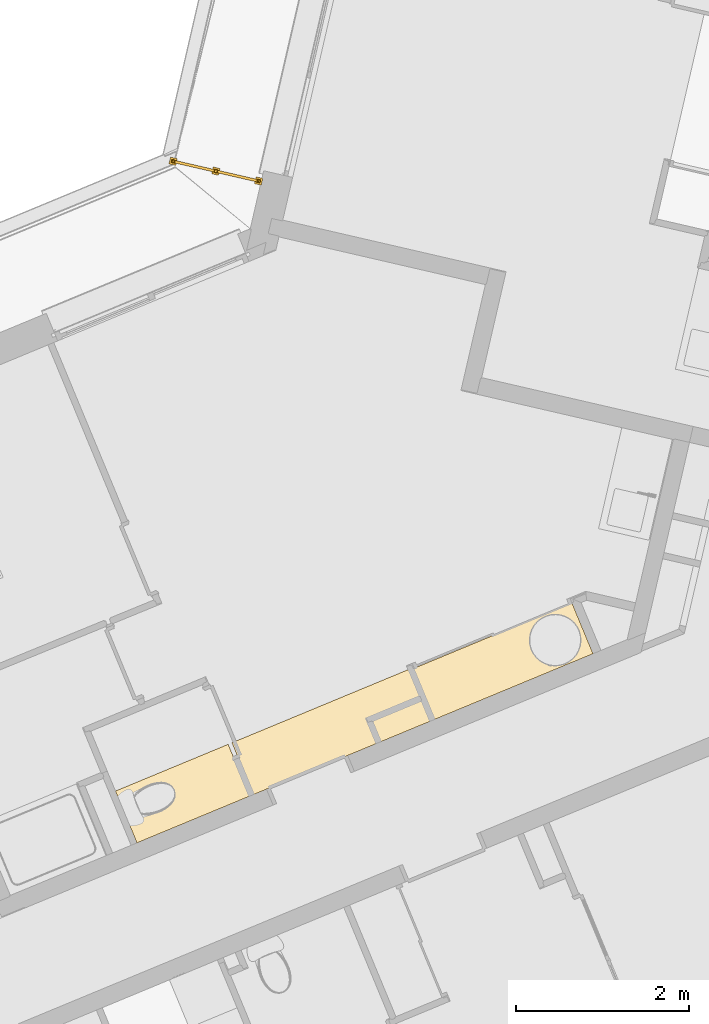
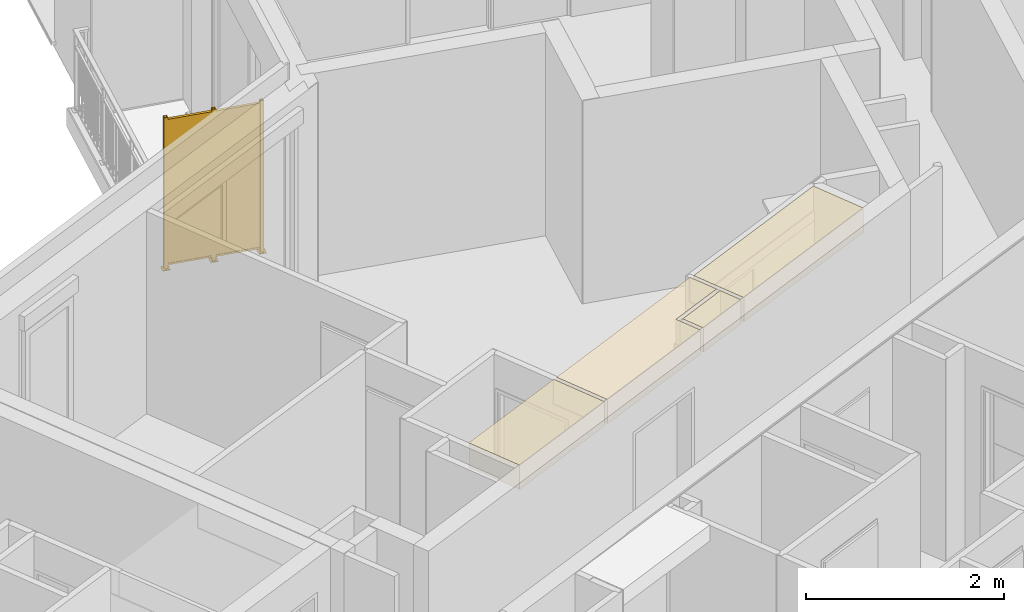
# One storey, part 61 of 90: 1 covering, 1 railing.
"""IFC2X3 building model written with IfcOpenShell, lengths in metres."""

from ifc_helpers import new_model, entity, si_unit, converted_unit, derived_unit, money_unit, direction, frame, origin_with_axes, place, context, subcontext, project, spatial, faceted_brep, material, material_list, type_object, element, save


model = new_model("IFC2X3")

# Units and contexts
model_context = context("Model", 3, precision=1e-05, world=origin_with_axes(), true_north=direction((0.0, 1.0)))
body_context = subcontext(model_context, "Body", "Model", "MODEL_VIEW")
ifc_project = project(units=[si_unit("LENGTHUNIT", "METRE"), si_unit("AREAUNIT", "SQUARE_METRE"), si_unit("VOLUMEUNIT", "CUBIC_METRE"), converted_unit("PLANEANGLEUNIT", "DEGREE", entity("IfcPlaneAngleMeasure", 0.0174532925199), si_unit("PLANEANGLEUNIT", "RADIAN"), dimensions=[0, 0, 0, 0, 0, 0, 0]), si_unit("SOLIDANGLEUNIT", "STERADIAN"), money_unit("EUR"), converted_unit("TIMEUNIT", "Year", entity("IfcTimeMeasure", 31556926.0), si_unit("TIMEUNIT", "SECOND"), dimensions=[0, 0, 1, 0, 0, 0, 0]), si_unit("MASSUNIT", "GRAM", prefix="KILO"), si_unit("THERMODYNAMICTEMPERATUREUNIT", "DEGREE_CELSIUS"), si_unit("LUMINOUSINTENSITYUNIT", "LUMEN"), si_unit("ENERGYUNIT", "JOULE", prefix="MEGA"), derived_unit("THERMALCONDUCTANCEUNIT", [(si_unit("POWERUNIT", "WATT"), 1), (si_unit("LENGTHUNIT", "METRE"), -1), (si_unit("THERMODYNAMICTEMPERATUREUNIT", "KELVIN"), -1)]), derived_unit("SPECIFICHEATCAPACITYUNIT", [(si_unit("ENERGYUNIT", "JOULE"), 1), (si_unit("MASSUNIT", "GRAM", prefix="KILO"), -1), (si_unit("THERMODYNAMICTEMPERATUREUNIT", "KELVIN"), -1)]), derived_unit("MASSDENSITYUNIT", [(si_unit("MASSUNIT", "GRAM", prefix="KILO"), 1), (si_unit("VOLUMEUNIT", "CUBIC_METRE"), -1)])], contexts=[model_context])

# Site, building, storey
site_placement = place(None, origin_with_axes())
site = spatial("IfcSite", under=ifc_project, at=site_placement, Name="Site", CompositionType="ELEMENT")
building_placement = place(site_placement, origin_with_axes())
building = spatial("IfcBuilding", under=site, at=building_placement, Name="Bâtiment", CompositionType="ELEMENT")
storey_placement = place(building_placement, frame((0.0, 0.0, 2.72), z_axis=(0.0, 0.0, 1.0), x_axis=(1.0, 0.0, 0.0)))
storey = spatial("IfcBuildingStorey", under=building, at=storey_placement, Name="R+1", CompositionType="ELEMENT", Elevation=2.72)

# Covering
ifc_material_1 = material(Name="Finition int - Plaque de plâtre")
covering_type = type_object("IfcCoveringType", Name="Finition int - Plaque de plâtre 300", PredefinedType="CEILING")
covering_placement = place(storey_placement, frame((-21.3394909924, -19.2731644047, 2.5), z_axis=(0.0, 0.0, 1.0), x_axis=(1.0, 0.0, 0.0)))
element("IfcCovering", 1, at=covering_placement, inside=storey, type_object=covering_type, material=ifc_material_1, Name="Dalle_003", PredefinedType="CEILING", context=body_context, shape_type="Brep", body=[
    faceted_brep([(0.249023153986, -0.600406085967, -0.3), (1.55421361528, -0.0590680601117, -0.3), (1.55421361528, -0.0590680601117, 0.0), (0.249023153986, -0.600406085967, 0.0), (0.0, 0.0, -0.3), (1.30519046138, 0.541338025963, -0.3), (1.30519046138, 0.541338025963, 0.0), (0.0, 0.0, 0.0)], [[[0, 1, 2, 3]], [[4, 5, 1, 0]], [[5, 6, 2, 1]], [[3, 2, 6, 7]], [[3, 7, 4, 0]], [[7, 6, 5, 4]]]),
    faceted_brep([(1.59855129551, -0.0406786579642, -0.3), (3.02659407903, 0.551613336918, -0.3), (3.02659407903, 0.551613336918, 0.0), (1.59855129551, -0.0406786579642, 0.0), (2.90744607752, 0.838884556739, -0.3), (2.92583547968, 0.79454687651, -0.3), (1.34952814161, 0.559727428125, -0.3), (3.40014585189, 1.41023727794, -0.3), (3.53002100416, 1.09710241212, -0.3), (2.92583547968, 0.79454687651, 0.0), (2.90744607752, 0.838884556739, 0.0), (3.53002100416, 1.09710241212, 0.0), (3.40014585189, 1.41023727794, 0.0), (1.34952814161, 0.559727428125, 0.0)], [[[0, 1, 2, 3]], [[4, 5, 1, 0, 6, 7, 8]], [[5, 9, 2, 1]], [[3, 2, 9, 10, 11, 12, 13]], [[6, 0, 3, 13]], [[10, 9, 5, 4]], [[13, 12, 7, 6]], [[12, 11, 8, 7]], [[4, 8, 11, 10]]]),
    faceted_brep([(5.53265798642, 1.59102308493, -0.3), (5.28784907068, 2.1812684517, -0.3), (5.28784907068, 2.1812684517, 0.0), (5.53265798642, 1.59102308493, 0.0), (3.69350668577, 0.828220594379, -0.3), (3.44869776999, 1.41846596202, -0.3), (3.44869776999, 1.41846596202, 0.0), (3.69350668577, 0.828220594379, 0.0)], [[[0, 1, 2, 3]], [[4, 5, 1, 0]], [[5, 6, 2, 1]], [[3, 2, 6, 7]], [[3, 7, 4, 0]], [[7, 6, 5, 4]]]),
    faceted_brep([(3.5484104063, 1.05276473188, 0.0), (2.97017315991, 0.812936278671, 0.0), (3.07093175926, 0.570002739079, 0.0), (3.64916900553, 0.809831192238, 0.0), (3.5484104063, 1.05276473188, -0.3), (2.97017315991, 0.812936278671, -0.3), (3.07093175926, 0.570002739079, -0.3), (3.64916900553, 0.809831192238, -0.3)], [[[0, 1, 2, 3]], [[4, 5, 1, 0]], [[5, 6, 2, 1]], [[3, 2, 6, 7]], [[7, 4, 0, 3]], [[7, 6, 5, 4]]]),
])

# Railing
ifc_material_2 = material(Name="Métal - Acier")
ifc_material_3 = material(Name="Métal - Acier inoxidable")
ifc_material_4 = material(Name="Vitrage")
ifc_material_list = material_list([ifc_material_2, ifc_material_2, ifc_material_3, ifc_material_4, ifc_material_2, ifc_material_3, ifc_material_4])
railing_type = type_object("IfcRailingType", Name="Type de garde-corps", PredefinedType="NOTDEFINED")
railing_placement = place(storey_placement, frame((-20.6060746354, -12.001900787, -0.00531189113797), z_axis=(0.0, 0.0, 1.0), x_axis=(0.997532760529, -0.0702025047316, 0.0)))
element("IfcRailing", 2, at=railing_placement, inside=storey, type_object=railing_type, material=ifc_material_list, Name="Pare-vue acier laqué+verre dépoli H=190", PredefinedType="NOTDEFINED", context=body_context, shape_type="Brep", body=[
    faceted_brep([(-0.0505157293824, 0.0333260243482, 0.01), (-0.0551932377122, 0.0036929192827, 0.01), (-0.0551932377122, 0.0036929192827, 1.88), (-0.0505157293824, 0.0333260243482, 1.88), (-0.0447972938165, 0.0374852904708, 0.01), (-0.0510339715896, -0.0020255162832, 0.01), (-0.0905447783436, 0.00421116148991, 0.01), (-0.0843081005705, 0.0437219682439, 0.01), (-0.0848263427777, 0.00837042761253, 0.01), (-0.0801488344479, 0.0380035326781, 0.01), (-0.0848263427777, 0.00837042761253, 1.88), (-0.0905447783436, 0.00421116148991, 1.88), (-0.0510339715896, -0.0020255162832, 1.88), (-0.0447972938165, 0.0374852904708, 1.88), (-0.0843081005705, 0.0437219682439, 1.88), (-0.0801488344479, 0.0380035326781, 1.88)], [[[0, 1, 2, 3]], [[4, 5, 6, 7], [8, 1, 0, 9]], [[1, 8, 10, 2]], [[11, 12, 13, 14], [3, 2, 10, 15]], [[9, 0, 3, 15]], [[5, 4, 13, 12]], [[6, 5, 12, 11]], [[7, 6, 11, 14]], [[4, 7, 14, 13]], [[8, 9, 15, 10]]]),
    faceted_brep([(-0.100945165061, 0.0665957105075, 0.0), (-0.100945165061, 0.0665957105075, 0.01), (-0.0219235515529, 0.0541223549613, 0.01), (-0.0219235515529, 0.0541223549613, 0.0), (-0.113418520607, -0.0124259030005, 0.0), (-0.113418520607, -0.0124259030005, 0.01), (-0.0343969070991, -0.0248992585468, 0.01), (-0.0343969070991, -0.0248992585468, 0.0)], [[[0, 1, 2, 3]], [[4, 5, 1, 0]], [[1, 5, 6, 2]], [[3, 2, 6, 7]], [[0, 3, 7, 4]], [[7, 6, 5, 4]]]),
    faceted_brep([(0.954545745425, -0.125320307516, 0.01), (0.949868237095, -0.154953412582, 0.01), (0.949868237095, -0.154953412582, 1.88), (0.954545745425, -0.125320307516, 1.88), (0.960264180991, -0.121161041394, 0.01), (0.954027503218, -0.160671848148, 0.01), (0.914516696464, -0.154435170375, 0.01), (0.920753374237, -0.114924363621, 0.01), (0.92023513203, -0.150275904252, 0.01), (0.92491264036, -0.120642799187, 0.01), (0.92023513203, -0.150275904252, 1.88), (0.914516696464, -0.154435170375, 1.88), (0.954027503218, -0.160671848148, 1.88), (0.960264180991, -0.121161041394, 1.88), (0.920753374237, -0.114924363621, 1.88), (0.92491264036, -0.120642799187, 1.88)], [[[0, 1, 2, 3]], [[4, 5, 6, 7], [8, 1, 0, 9]], [[1, 8, 10, 2]], [[11, 12, 13, 14], [3, 2, 10, 15]], [[9, 0, 3, 15]], [[5, 4, 13, 12]], [[6, 5, 12, 11]], [[7, 6, 11, 14]], [[4, 7, 14, 13]], [[8, 9, 15, 10]]]),
    faceted_brep([(0.904116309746, -0.0920506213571, 0.0), (0.904116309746, -0.0920506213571, 0.01), (0.983137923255, -0.104523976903, 0.01), (0.983137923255, -0.104523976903, 0.0), (0.8916429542, -0.171072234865, 0.0), (0.8916429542, -0.171072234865, 0.01), (0.970664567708, -0.183545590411, 0.01), (0.970664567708, -0.183545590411, 0.0)], [[[0, 1, 2, 3]], [[4, 5, 1, 0]], [[1, 5, 6, 2]], [[3, 2, 6, 7]], [[0, 3, 7, 4]], [[7, 6, 5, 4]]]),
    faceted_brep([(0.437198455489, -0.0436583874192, 0.05), (-0.0653322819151, 0.0356647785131, 0.05), (-0.0653322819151, 0.0356647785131, 1.85), (0.437198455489, -0.0436583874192, 1.85), (-0.0455768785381, 0.0325464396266, 1.83), (-0.0455768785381, 0.0325464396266, 0.07), (0.417443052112, -0.0405400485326, 0.07), (0.417443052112, -0.0405400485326, 1.83), (-0.070009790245, 0.00603167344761, 0.05), (0.432520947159, -0.0732914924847, 0.05), (-0.070009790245, 0.00603167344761, 1.85), (0.432520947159, -0.0732914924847, 1.85), (-0.050254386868, 0.00291333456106, 0.07), (-0.050254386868, 0.00291333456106, 1.83), (0.412765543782, -0.0701731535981, 0.07), (0.412765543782, -0.0701731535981, 1.83)], [[[0, 1, 2, 3], [4, 5, 6, 7]], [[8, 1, 0, 9]], [[10, 2, 1, 8]], [[3, 2, 10, 11]], [[0, 3, 11, 9]], [[12, 5, 4, 13]], [[14, 6, 5, 12]], [[7, 6, 14, 15]], [[4, 7, 15, 13]], [[10, 8, 9, 11], [14, 12, 13, 15]]]),
    faceted_brep([(0.41666346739, -0.0454788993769, 0.07), (-0.0463564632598, 0.0276075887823, 0.07), (-0.0463564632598, 0.0276075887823, 1.83), (0.41666346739, -0.0454788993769, 1.83), (-0.0494748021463, 0.00785218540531, 0.07), (0.413545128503, -0.0652343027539, 0.07), (-0.0494748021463, 0.00785218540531, 1.83), (0.413545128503, -0.0652343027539, 1.83)], [[[0, 1, 2, 3]], [[4, 1, 0, 5]], [[6, 2, 1, 4]], [[3, 2, 6, 7]], [[0, 3, 7, 5]], [[6, 4, 5, 7]]]),
    faceted_brep([(0.452015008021, -0.0459971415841, 0.01), (0.447337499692, -0.0756302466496, 0.01), (0.447337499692, -0.0756302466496, 1.88), (0.452015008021, -0.0459971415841, 1.88), (0.457733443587, -0.0418378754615, 0.01), (0.451496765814, -0.0813486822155, 0.01), (0.41198595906, -0.0751120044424, 0.01), (0.418222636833, -0.0356011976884, 0.01), (0.417704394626, -0.0709527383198, 0.01), (0.422381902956, -0.0413196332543, 0.01), (0.417704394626, -0.0709527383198, 1.88), (0.41198595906, -0.0751120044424, 1.88), (0.451496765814, -0.0813486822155, 1.88), (0.457733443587, -0.0418378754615, 1.88), (0.418222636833, -0.0356011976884, 1.88), (0.422381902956, -0.0413196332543, 1.88)], [[[0, 1, 2, 3]], [[4, 5, 6, 7], [8, 1, 0, 9]], [[1, 8, 10, 2]], [[11, 12, 13, 14], [3, 2, 10, 15]], [[9, 0, 3, 15]], [[5, 4, 13, 12]], [[6, 5, 12, 11]], [[7, 6, 11, 14]], [[4, 7, 14, 13]], [[8, 9, 15, 10]]]),
    faceted_brep([(0.401585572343, -0.0127274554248, 0.0), (0.401585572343, -0.0127274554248, 0.01), (0.480607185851, -0.025200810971, 0.01), (0.480607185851, -0.025200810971, 0.0), (0.389112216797, -0.0917490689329, 0.0), (0.389112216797, -0.0917490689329, 0.01), (0.468133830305, -0.104222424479, 0.01), (0.468133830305, -0.104222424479, 0.0)], [[[0, 1, 2, 3]], [[4, 5, 1, 0]], [[1, 5, 6, 2]], [[3, 2, 6, 7]], [[0, 3, 7, 4]], [[7, 6, 5, 4]]]),
    faceted_brep([(0.939729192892, -0.122981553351, 0.05), (0.437198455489, -0.0436583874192, 0.05), (0.437198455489, -0.0436583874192, 1.85), (0.939729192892, -0.122981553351, 1.85), (0.456953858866, -0.0467767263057, 1.83), (0.456953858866, -0.0467767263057, 0.07), (0.919973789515, -0.119863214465, 0.07), (0.919973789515, -0.119863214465, 1.83), (0.432520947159, -0.0732914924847, 0.05), (0.935051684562, -0.152614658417, 0.05), (0.432520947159, -0.0732914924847, 1.85), (0.935051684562, -0.152614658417, 1.85), (0.452276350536, -0.0764098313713, 0.07), (0.452276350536, -0.0764098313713, 1.83), (0.915296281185, -0.14949631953, 0.07), (0.915296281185, -0.14949631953, 1.83)], [[[0, 1, 2, 3], [4, 5, 6, 7]], [[8, 1, 0, 9]], [[10, 2, 1, 8]], [[3, 2, 10, 11]], [[0, 3, 11, 9]], [[12, 5, 4, 13]], [[14, 6, 5, 12]], [[7, 6, 14, 15]], [[4, 7, 15, 13]], [[10, 8, 9, 11], [14, 12, 13, 15]]]),
    faceted_brep([(0.919194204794, -0.124802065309, 0.07), (0.456174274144, -0.05171557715, 0.07), (0.456174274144, -0.05171557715, 1.83), (0.919194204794, -0.124802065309, 1.83), (0.453055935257, -0.071470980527, 0.07), (0.916075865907, -0.144557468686, 0.07), (0.453055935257, -0.071470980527, 1.83), (0.916075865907, -0.144557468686, 1.83)], [[[0, 1, 2, 3]], [[4, 1, 0, 5]], [[6, 2, 1, 4]], [[3, 2, 6, 7]], [[0, 3, 7, 5]], [[6, 4, 5, 7]]]),
])

save(model, "model.ifc")
